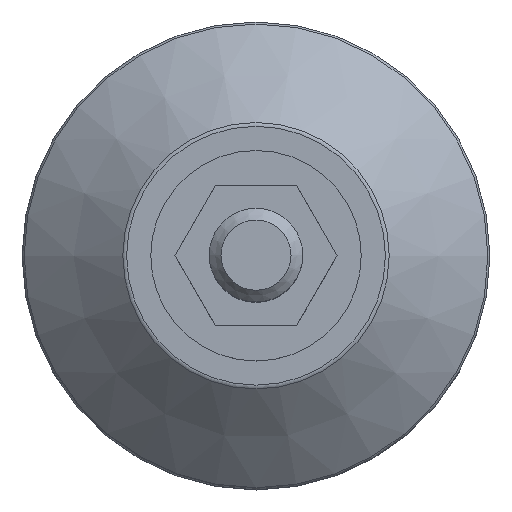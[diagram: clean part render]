
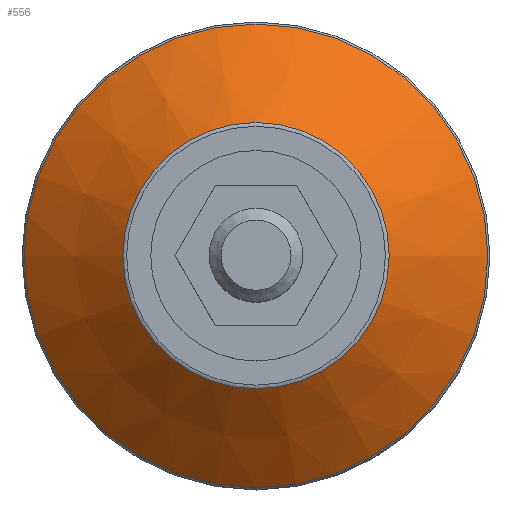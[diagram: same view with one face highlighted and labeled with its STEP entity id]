
A CAD part, top view. The second image highlights one B-rep face of the part: STEP entity #556.
In plain terms, the highlighted conical face has half-angle 49.399 degrees and reference radius 31.216 mm.
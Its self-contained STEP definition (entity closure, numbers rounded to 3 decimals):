
#79=CONICAL_SURFACE('',#629,31.216,49.399);
#96=FACE_BOUND('',#201,.T.);
#138=FACE_OUTER_BOUND('',#200,.T.);
#200=EDGE_LOOP('',(#443));
#201=EDGE_LOOP('',(#444));
#275=CIRCLE('',#628,39.651);
#276=CIRCLE('',#630,22.781);
#321=VERTEX_POINT('',#952);
#322=VERTEX_POINT('',#955);
#373=EDGE_CURVE('',#321,#321,#275,.T.);
#374=EDGE_CURVE('',#322,#322,#276,.T.);
#443=ORIENTED_EDGE('',*,*,#373,.T.);
#444=ORIENTED_EDGE('',*,*,#374,.F.);
#556=ADVANCED_FACE('',(#138,#96),#79,.T.);
#628=AXIS2_PLACEMENT_3D('',#953,#751,#752);
#629=AXIS2_PLACEMENT_3D('',#954,#753,#754);
#630=AXIS2_PLACEMENT_3D('',#956,#755,#756);
#751=DIRECTION('center_axis',(0.,0.,1.));
#752=DIRECTION('ref_axis',(1.,0.,0.));
#753=DIRECTION('center_axis',(0.,0.,-1.));
#754=DIRECTION('ref_axis',(1.,0.,0.));
#755=DIRECTION('center_axis',(0.,0.,1.));
#756=DIRECTION('ref_axis',(1.,0.,0.));
#952=CARTESIAN_POINT('',(-40.551,2.551,-2.201));
#953=CARTESIAN_POINT('Origin',(-0.9,2.551,-2.201));
#954=CARTESIAN_POINT('Origin',(-0.9,2.551,5.029));
#955=CARTESIAN_POINT('',(-23.681,2.551,12.259));
#956=CARTESIAN_POINT('Origin',(-0.9,2.551,12.259));
